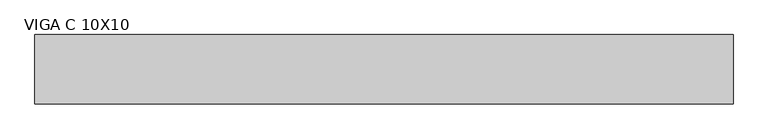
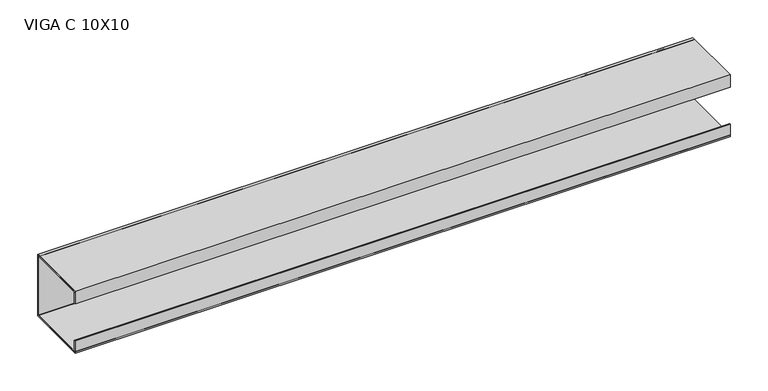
"""IFC4 building model written with IfcOpenShell, lengths in millimetres: beam geometry, VIGA PERFIL C AÇO : VIGA C 10X10."""

from ifc_helpers import new_model, si_unit, point, frame, frame_2d, origin, place, context, project, spatial, polyline, circle_curve, trimmed, segment, composite_curve, outline, extrude, source, transform, mapped, element, save


def viga_c_10x10_071e4779(model_context):
    return source(origin(), model_context, "Body", "SweptSolid", [
        extrude(outline(polyline([(9.2, -50.0), (-90.8, -50.0), (-90.8, -30.0), (-88.9, -30.0), (-88.9, -48.1), (7.3, -48.1), (7.3, 48.1), (-88.9, 48.1), (-88.9, 30.0), (-90.8, 30.0), (-90.8, 50.0), (9.2, 50.0), (9.2, -50.0)])), frame((-470.0, 0.0, 0.0), z_axis=(1.0, 0.0, 0.0), x_axis=(0.0, 1.0, 0.0)), (0.0, 0.0, 1.0), 1006.0),
        extrude(outline(composite_curve([segment(trimmed(circle_curve(frame_2d((5.4, -46.2)), 3.8), [point((9.2, -46.2))], [point((5.4, -50.0))], False, "CARTESIAN"), True, "CONTINUOUS"), segment(polyline([(5.4, -50.0), (-87.0, -50.0)]), True, "CONTINUOUS"), segment(trimmed(circle_curve(frame_2d((-87.0, -46.2)), 3.8), [point((-87.0, -50.0))], [point((-90.8, -46.2))], False, "CARTESIAN"), True, "CONTINUOUS"), segment(polyline([(-90.8, -46.2), (-90.8, -30.0), (-88.9, -30.0), (-88.9, -46.2)]), True, "CONTINUOUS"), segment(trimmed(circle_curve(frame_2d((-87.0, -46.2)), 1.9), [point((-88.9, -46.2))], [point((-87.0, -48.1))], True, "CARTESIAN"), True, "CONTINUOUS"), segment(polyline([(-87.0, -48.1), (5.4, -48.1)]), True, "CONTINUOUS"), segment(trimmed(circle_curve(frame_2d((5.4, -46.2)), 1.9), [point((5.4, -48.1))], [point((7.3, -46.2))], True, "CARTESIAN"), True, "CONTINUOUS"), segment(polyline([(7.3, -46.2), (7.3, 46.2)]), True, "CONTINUOUS"), segment(trimmed(circle_curve(frame_2d((5.4, 46.2)), 1.9), [point((7.3, 46.2))], [point((5.4, 48.1))], True, "CARTESIAN"), True, "CONTINUOUS"), segment(polyline([(5.4, 48.1), (-87.0, 48.1)]), True, "CONTINUOUS"), segment(trimmed(circle_curve(frame_2d((-87.0, 46.2)), 1.9), [point((-87.0, 48.1))], [point((-88.9, 46.2))], True, "CARTESIAN"), True, "CONTINUOUS"), segment(polyline([(-88.9, 46.2), (-88.9, 30.0), (-90.8, 30.0), (-90.8, 46.2)]), True, "CONTINUOUS"), segment(trimmed(circle_curve(frame_2d((-87.0, 46.2)), 3.8), [point((-90.8, 46.2))], [point((-87.0, 50.0))], False, "CARTESIAN"), True, "CONTINUOUS"), segment(polyline([(-87.0, 50.0), (5.4, 50.0)]), True, "CONTINUOUS"), segment(trimmed(circle_curve(frame_2d((5.4, 46.2)), 3.8), [point((5.4, 50.0))], [point((9.2, 46.2))], False, "CARTESIAN"), True, "CONTINUOUS"), segment(polyline([(9.2, 46.2), (9.2, -46.2)]), True, "CONTINUOUS")], self_intersect=False)), frame((-470.0, 0.0, 0.0), z_axis=(1.0, 0.0, 0.0), x_axis=(0.0, 1.0, 0.0)), (0.0, 0.0, 1.0), 1006.0),
    ])


if __name__ == "__main__":
    model = new_model("IFC4")
    model_context = context("Model", 3, world=origin())
    ifc_project = project(units=[si_unit("LENGTHUNIT", "METRE", prefix="MILLI")], contexts=[model_context])
    site = spatial("IfcSite", under=ifc_project)
    building = spatial("IfcBuilding", under=site)
    placement = place(None, origin())
    viga_c_10x10_shape = viga_c_10x10_071e4779(model_context)
    element("IfcBeam", 1, ObjectType="VIGA PERFIL C AÇO : VIGA C 10X10", at=placement, inside=building, context=model_context, shape_type="MappedRepresentation", body=[
        mapped(viga_c_10x10_shape, transform((0.0, 0.0, 0.0), x_axis=(1.0, 0.0, 0.0), y_axis=(0.0, 1.0, 0.0), z_axis=(0.0, 0.0, 1.0))),
    ])
    save(model, "model.ifc")
